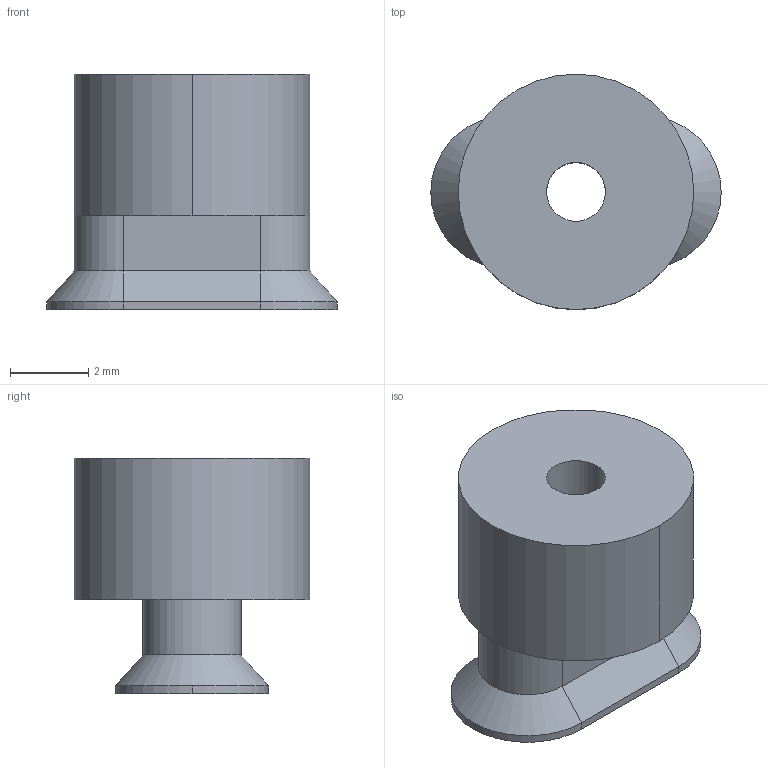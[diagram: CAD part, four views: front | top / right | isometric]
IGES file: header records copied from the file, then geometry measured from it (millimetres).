
Start section: 3D InterOp IGES (v. 2018 1.0.2), Spatial Corp. Copyright (c) 1999-2017.
Global section: file name: schmalz_10_01_05_00427_dx4msa11csfgecwwbymcwe70d.igs; native system: Spatial Corp.; preprocessor: 3D InterOp ACIS/IGES; author: TraceParts; organization: TraceParts S.A.; date: 20181122.025441; units: millimetre
Bounding box: 7.4 x 6 x 6 mm (x, y, z)
Surface area: 226.3 mm2 (no closed solid volume)
Topology: 0 solids, 0 shells, 40 faces, 184 edges, 184 vertices
Faces by surface type: revolution 22, extrusion 18
